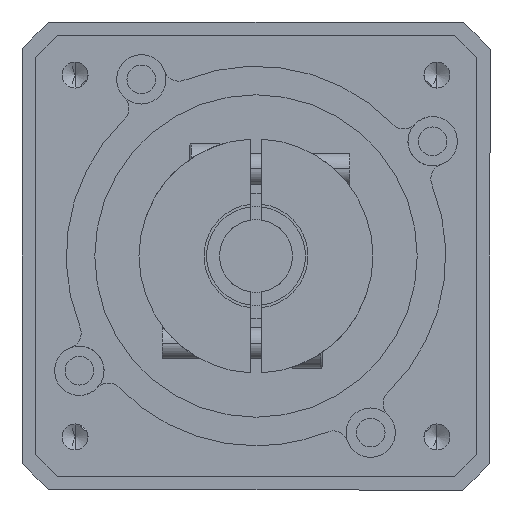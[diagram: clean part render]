
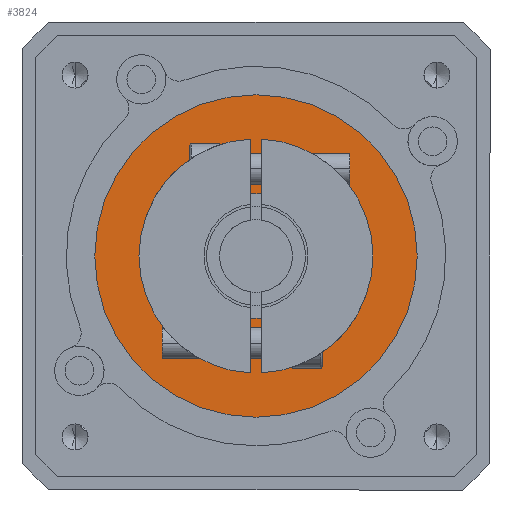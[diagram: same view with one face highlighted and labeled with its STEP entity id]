
A CAD part, front view. The second image highlights one B-rep face of the part: STEP entity #3824.
In plain terms, the highlighted planar face has unit normal (0, -1, 0).
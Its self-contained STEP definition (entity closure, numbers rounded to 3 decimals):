
#14 = AXIS2_PLACEMENT_3D ( 'NONE', #7032, #3383, #7643 ) ;
#84 = EDGE_CURVE ( 'NONE', #1441, #6915, #4742, .T. ) ;
#460 = DIRECTION ( 'NONE',  ( 0., 1., 0. ) ) ;
#500 = FACE_OUTER_BOUND ( 'NONE', #1623, .T. ) ;
#540 = CARTESIAN_POINT ( 'NONE',  ( 0., -120.1, 31. ) ) ;
#1051 = CARTESIAN_POINT ( 'NONE',  ( 0., -120.1, 12. ) ) ;
#1156 = CARTESIAN_POINT ( 'NONE',  ( 0., -120.1, -31. ) ) ;
#1287 = EDGE_CURVE ( 'NONE', #6915, #1441, #1962, .T. ) ;
#1303 = DIRECTION ( 'NONE',  ( 0., 1., 0. ) ) ;
#1441 = VERTEX_POINT ( 'NONE', #540 ) ;
#1623 = EDGE_LOOP ( 'NONE', ( #2965, #7293 ) ) ;
#1815 = CARTESIAN_POINT ( 'NONE',  ( 0., -120.1, 0. ) ) ;
#1875 = AXIS2_PLACEMENT_3D ( 'NONE', #4981, #1303, #5596 ) ;
#1944 = FACE_BOUND ( 'NONE', #5939, .T. ) ;
#1962 = CIRCLE ( 'NONE', #5964, 31. ) ;
#1989 = CARTESIAN_POINT ( 'NONE',  ( 0., -120.1, 12. ) ) ;
#2269 = DIRECTION ( 'NONE',  ( 0., 1., 0. ) ) ;
#2965 = ORIENTED_EDGE ( 'NONE', *, *, #84, .F. ) ;
#3286 = EDGE_CURVE ( 'NONE', #4480, #3343, #4159, .T. ) ;
#3343 = VERTEX_POINT ( 'NONE', #1989 ) ;
#3383 = DIRECTION ( 'NONE',  ( 0., 1., 0. ) ) ;
#3623 = CIRCLE ( 'NONE', #14, 12. ) ;
#3824 = ADVANCED_FACE ( 'NONE', ( #500, #1944 ), #4722, .F. ) ;
#4113 = EDGE_CURVE ( 'NONE', #3343, #4480, #3623, .T. ) ;
#4159 = CIRCLE ( 'NONE', #1875, 12. ) ;
#4480 = VERTEX_POINT ( 'NONE', #5578 ) ;
#4524 = AXIS2_PLACEMENT_3D ( 'NONE', #1815, #7477, #7541 ) ;
#4722 = PLANE ( 'NONE',  #6503 ) ;
#4742 = CIRCLE ( 'NONE', #4524, 31. ) ;
#4753 = DIRECTION ( 'NONE',  ( 0., 0., 1. ) ) ;
#4949 = ORIENTED_EDGE ( 'NONE', *, *, #4113, .T. ) ;
#4981 = CARTESIAN_POINT ( 'NONE',  ( 0., -120.1, 0. ) ) ;
#5578 = CARTESIAN_POINT ( 'NONE',  ( 0., -120.1, -12. ) ) ;
#5596 = DIRECTION ( 'NONE',  ( 0., 0., 1. ) ) ;
#5931 = CARTESIAN_POINT ( 'NONE',  ( 0., -120.1, 0. ) ) ;
#5939 = EDGE_LOOP ( 'NONE', ( #4949, #7066 ) ) ;
#5964 = AXIS2_PLACEMENT_3D ( 'NONE', #5931, #2269, #6539 ) ;
#6503 = AXIS2_PLACEMENT_3D ( 'NONE', #1051, #460, #4753 ) ;
#6539 = DIRECTION ( 'NONE',  ( 0., 0., 1. ) ) ;
#6915 = VERTEX_POINT ( 'NONE', #1156 ) ;
#7032 = CARTESIAN_POINT ( 'NONE',  ( 0., -120.1, 0. ) ) ;
#7066 = ORIENTED_EDGE ( 'NONE', *, *, #3286, .T. ) ;
#7293 = ORIENTED_EDGE ( 'NONE', *, *, #1287, .F. ) ;
#7477 = DIRECTION ( 'NONE',  ( 0., 1., 0. ) ) ;
#7541 = DIRECTION ( 'NONE',  ( 0., 0., 1. ) ) ;
#7643 = DIRECTION ( 'NONE',  ( 0., 0., 1. ) ) ;
